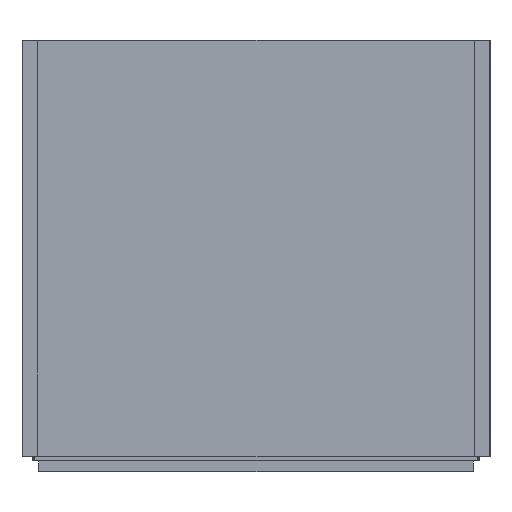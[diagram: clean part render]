
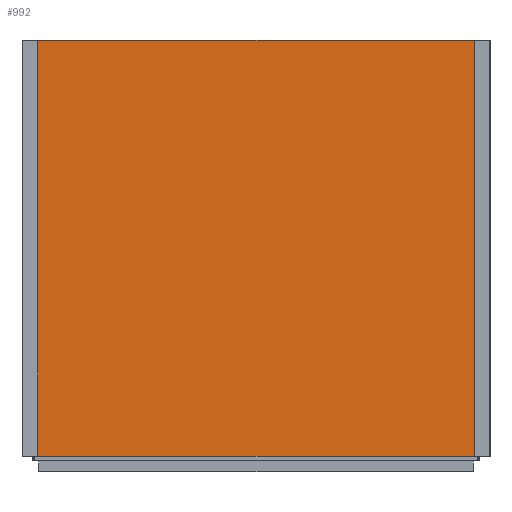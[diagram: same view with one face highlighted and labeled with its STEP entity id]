
A CAD part, left-side view. The second image highlights one B-rep face of the part: STEP entity #992.
In plain terms, the highlighted planar face has unit normal (-1, 0, 0).
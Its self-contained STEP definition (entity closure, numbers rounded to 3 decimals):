
#992=ADVANCED_FACE('',(#1226),#4426,.T.);
#1226=FACE_OUTER_BOUND('',#1480,.T.);
#1480=EDGE_LOOP('',(#2070,#2071,#2072,#2073));
#2070=ORIENTED_EDGE('',*,*,#3056,.F.);
#2071=ORIENTED_EDGE('',*,*,#3054,.F.);
#2072=ORIENTED_EDGE('',*,*,#3057,.F.);
#2073=ORIENTED_EDGE('',*,*,#3055,.F.);
#3054=EDGE_CURVE('',#4159,#4160,#3582,.T.);
#3055=EDGE_CURVE('',#4161,#4158,#3583,.T.);
#3056=EDGE_CURVE('',#4160,#4161,#3584,.T.);
#3057=EDGE_CURVE('',#4158,#4159,#3585,.T.);
#3582=B_SPLINE_CURVE_WITH_KNOTS('',1,(#7348,#7349),.UNSPECIFIED.,.F.,.F.,
(2,2),(288.69,738.69),.UNSPECIFIED.);
#3583=B_SPLINE_CURVE_WITH_KNOTS('',1,(#7350,#7351),.UNSPECIFIED.,.F.,.F.,
(2,2),(1166.673,1616.673),.UNSPECIFIED.);
#3584=B_SPLINE_CURVE_WITH_KNOTS('',1,(#7352,#7353,#7354,#7355,#7356,#7357),
 .UNSPECIFIED.,.F.,.F.,(2,1,1,1,1,2),(0.,40.,130.,
275.,368.75,423.75),.UNSPECIFIED.);
#3585=B_SPLINE_CURVE_WITH_KNOTS('',1,(#7358,#7359,#7360,#7361,#7362,#7363),
 .UNSPECIFIED.,.F.,.F.,(2,1,1,1,1,2),(0.,55.,155.,
300.,360.,400.),.UNSPECIFIED.);
#4158=VERTEX_POINT('',#7344);
#4159=VERTEX_POINT('',#7345);
#4160=VERTEX_POINT('',#7346);
#4161=VERTEX_POINT('',#7347);
#4426=PLANE('',#4853);
#4853=AXIS2_PLACEMENT_3D('',#7343,#5496,$);
#5496=DIRECTION('',(-1.,0.,0.));
#7343=CARTESIAN_POINT('',(-43207.526,-17075.666,419.));
#7344=CARTESIAN_POINT('',(-43207.526,-16641.266,15.));
#7345=CARTESIAN_POINT('',(-43207.526,-16641.266,415.));
#7346=CARTESIAN_POINT('',(-43207.526,-17061.266,415.));
#7347=CARTESIAN_POINT('',(-43207.526,-17061.266,15.));
#7348=CARTESIAN_POINT('',(-43207.526,-16641.266,415.));
#7349=CARTESIAN_POINT('',(-43207.526,-17061.266,415.));
#7350=CARTESIAN_POINT('',(-43207.526,-17061.266,15.));
#7351=CARTESIAN_POINT('',(-43207.526,-16641.266,15.));
#7352=CARTESIAN_POINT('',(-43207.526,-17061.266,415.));
#7353=CARTESIAN_POINT('',(-43207.526,-17061.266,375.));
#7354=CARTESIAN_POINT('',(-43207.526,-17061.266,315.));
#7355=CARTESIAN_POINT('',(-43207.526,-17061.266,170.));
#7356=CARTESIAN_POINT('',(-43207.526,-17061.266,70.));
#7357=CARTESIAN_POINT('',(-43207.526,-17061.266,15.));
#7358=CARTESIAN_POINT('',(-43207.526,-16641.266,15.));
#7359=CARTESIAN_POINT('',(-43207.526,-16641.266,70.));
#7360=CARTESIAN_POINT('',(-43207.526,-16641.266,170.));
#7361=CARTESIAN_POINT('',(-43207.526,-16641.266,315.));
#7362=CARTESIAN_POINT('',(-43207.526,-16641.266,375.));
#7363=CARTESIAN_POINT('',(-43207.526,-16641.266,415.));
